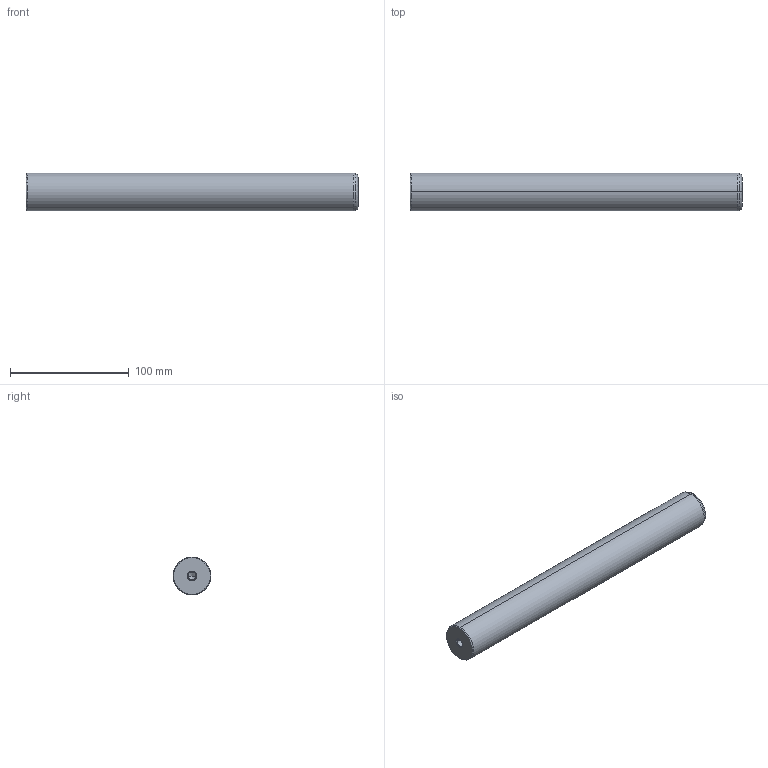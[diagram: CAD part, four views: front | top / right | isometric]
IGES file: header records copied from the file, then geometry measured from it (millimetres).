
Start section: START RECORD GO HERE.
Global section: file name: 720-32x280.igs; native system: DASSAULT SYSTEMES CATIA V5 R20 - www.3ds.com; preprocessor: CATIA Version 5 Release 20 ; author: Utente; organization: NB04-ASUS; date: 20210101.131518; units: millimetre
Bounding box: 280 x 32 x 32 mm (x, y, z)
Surface area: 30541.4 mm2 (no closed solid volume)
Topology: 0 solids, 0 shells, 22 faces, 108 edges, 104 vertices
Faces by surface type: revolution 20, plane 2
